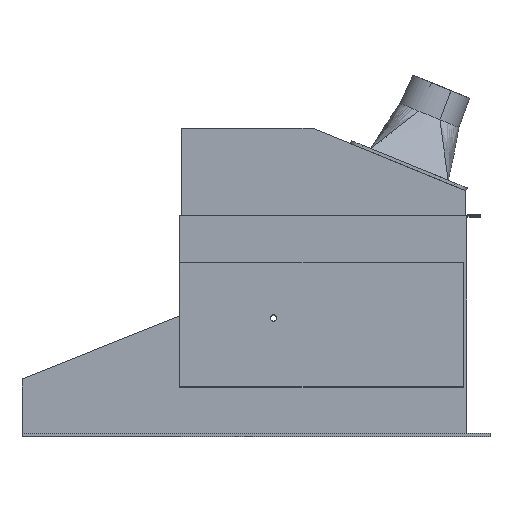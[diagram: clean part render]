
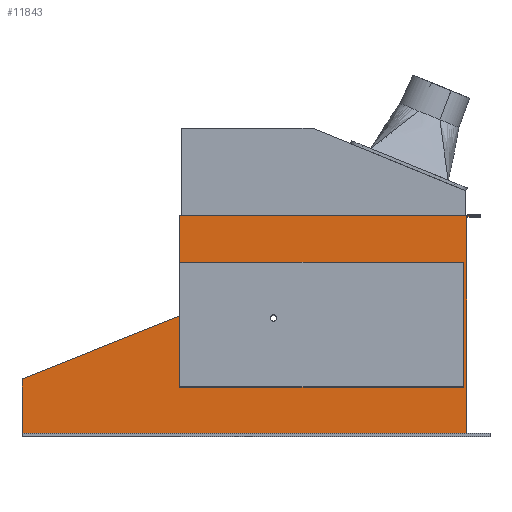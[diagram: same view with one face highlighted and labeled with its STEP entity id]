
A CAD part, top view. The second image highlights one B-rep face of the part: STEP entity #11843.
In plain terms, the highlighted planar face has unit normal (0, 0, 1).
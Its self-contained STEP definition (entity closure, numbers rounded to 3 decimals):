
#621 = DIRECTION ( 'NONE',  ( 0., -1., 0. ) ) ;
#857 = LINE ( 'NONE', #12653, #14472 ) ;
#1175 = CARTESIAN_POINT ( 'NONE',  ( 331.485, -97.895, 243. ) ) ;
#2078 = VECTOR ( 'NONE', #19896, 1000. ) ;
#2481 = VECTOR ( 'NONE', #44364, 1000. ) ;
#3699 = LINE ( 'NONE', #30045, #2078 ) ;
#4401 = ORIENTED_EDGE ( 'NONE', *, *, #63240, .F. ) ;
#8157 = CARTESIAN_POINT ( 'NONE',  ( 337.485, -171.895, 243. ) ) ;
#9561 = CARTESIAN_POINT ( 'NONE',  ( -122.515, 0., 243. ) ) ;
#10564 = VECTOR ( 'NONE', #21807, 1000. ) ;
#10803 = CARTESIAN_POINT ( 'NONE',  ( 359.485, 176.605, 243. ) ) ;
#11046 = CARTESIAN_POINT ( 'NONE',  ( 0., 0., 243. ) ) ;
#11843 = ADVANCED_FACE ( 'NONE', ( #56024 ), #45759, .T. ) ;
#12171 = LINE ( 'NONE', #1175, #10564 ) ;
#12600 = LINE ( 'NONE', #15200, #37484 ) ;
#12653 = CARTESIAN_POINT ( 'NONE',  ( 0., 176.605, 243. ) ) ;
#13402 = AXIS2_PLACEMENT_3D ( 'NONE', #11046, #50693, #21186 ) ;
#14169 = EDGE_LOOP ( 'NONE', ( #46524, #21892, #30207, #23975, #17611, #39983, #48367, #4401, #46416, #29664, #46257, #47046 ) ) ;
#14261 = DIRECTION ( 'NONE',  ( 0., -1., 0. ) ) ;
#14472 = VECTOR ( 'NONE', #27914, 1000. ) ;
#15043 = DIRECTION ( 'NONE',  ( 1., 0., 0. ) ) ;
#15200 = CARTESIAN_POINT ( 'NONE',  ( -122.515, -97.895, 243. ) ) ;
#15883 = LINE ( 'NONE', #30062, #39107 ) ;
#16955 = CARTESIAN_POINT ( 'NONE',  ( 331.485, -97.895, 243. ) ) ;
#17611 = ORIENTED_EDGE ( 'NONE', *, *, #55529, .F. ) ;
#17877 = CARTESIAN_POINT ( 'NONE',  ( -22.521, 56.303, 243. ) ) ;
#19896 = DIRECTION ( 'NONE',  ( 0., -1., 0. ) ) ;
#21143 = DIRECTION ( 'NONE',  ( -1., 0., 0. ) ) ;
#21186 = DIRECTION ( 'NONE',  ( 1., 0., 0. ) ) ;
#21807 = DIRECTION ( 'NONE',  ( 1., 0., 0. ) ) ;
#21892 = ORIENTED_EDGE ( 'NONE', *, *, #51034, .T. ) ;
#22024 = CARTESIAN_POINT ( 'NONE',  ( 359.485, 174.896, 243. ) ) ;
#22222 = VERTEX_POINT ( 'NONE', #8157 ) ;
#22512 = EDGE_CURVE ( 'NONE', #43458, #25702, #12171, .T. ) ;
#22532 = VERTEX_POINT ( 'NONE', #61094 ) ;
#22593 = VERTEX_POINT ( 'NONE', #22024 ) ;
#22732 = DIRECTION ( 'NONE',  ( 0., 1., 0. ) ) ;
#23297 = CARTESIAN_POINT ( 'NONE',  ( 337.485, 174.896, 243. ) ) ;
#23975 = ORIENTED_EDGE ( 'NONE', *, *, #42413, .T. ) ;
#25197 = DIRECTION ( 'NONE',  ( 0., -1., 0. ) ) ;
#25702 = VERTEX_POINT ( 'NONE', #16955 ) ;
#25825 = EDGE_CURVE ( 'NONE', #50061, #35016, #40879, .T. ) ;
#27198 = LINE ( 'NONE', #44043, #38781 ) ;
#27914 = DIRECTION ( 'NONE',  ( 1., 0., 0. ) ) ;
#29189 = EDGE_CURVE ( 'NONE', #25702, #41088, #32568, .T. ) ;
#29411 = CARTESIAN_POINT ( 'NONE',  ( 331.485, 102.105, 243. ) ) ;
#29664 = ORIENTED_EDGE ( 'NONE', *, *, #22512, .F. ) ;
#30045 = CARTESIAN_POINT ( 'NONE',  ( 359.485, 0., 243. ) ) ;
#30062 = CARTESIAN_POINT ( 'NONE',  ( 0., -171.895, 243. ) ) ;
#30207 = ORIENTED_EDGE ( 'NONE', *, *, #39082, .F. ) ;
#32568 = LINE ( 'NONE', #52240, #60185 ) ;
#32993 = DIRECTION ( 'NONE',  ( -0.928, -0.371, 0. ) ) ;
#34644 = VECTOR ( 'NONE', #14261, 1000. ) ;
#34961 = CARTESIAN_POINT ( 'NONE',  ( -122.515, 102.105, 243. ) ) ;
#35016 = VERTEX_POINT ( 'NONE', #34961 ) ;
#35780 = EDGE_CURVE ( 'NONE', #50061, #55618, #857, .T. ) ;
#36141 = CARTESIAN_POINT ( 'NONE',  ( -122.515, 16.305, 243. ) ) ;
#37484 = VECTOR ( 'NONE', #25197, 1000. ) ;
#38781 = VECTOR ( 'NONE', #15043, 1000. ) ;
#39082 = EDGE_CURVE ( 'NONE', #51836, #22222, #55204, .T. ) ;
#39107 = VECTOR ( 'NONE', #49617, 1000. ) ;
#39490 = VERTEX_POINT ( 'NONE', #36141 ) ;
#39983 = ORIENTED_EDGE ( 'NONE', *, *, #35780, .F. ) ;
#40356 = EDGE_CURVE ( 'NONE', #39490, #43458, #12600, .T. ) ;
#40663 = VECTOR ( 'NONE', #621, 1000. ) ;
#40813 = CARTESIAN_POINT ( 'NONE',  ( 331.485, 102.105, 243. ) ) ;
#40879 = LINE ( 'NONE', #9561, #2481 ) ;
#41088 = VERTEX_POINT ( 'NONE', #29411 ) ;
#42413 = EDGE_CURVE ( 'NONE', #51836, #22593, #27198, .T. ) ;
#43458 = VERTEX_POINT ( 'NONE', #49009 ) ;
#44043 = CARTESIAN_POINT ( 'NONE',  ( 0., 174.896, 243. ) ) ;
#44364 = DIRECTION ( 'NONE',  ( 0., -1., 0. ) ) ;
#45759 = PLANE ( 'NONE',  #13402 ) ;
#46181 = LINE ( 'NONE', #40813, #47711 ) ;
#46257 = ORIENTED_EDGE ( 'NONE', *, *, #40356, .F. ) ;
#46416 = ORIENTED_EDGE ( 'NONE', *, *, #29189, .F. ) ;
#46524 = ORIENTED_EDGE ( 'NONE', *, *, #47756, .T. ) ;
#47046 = ORIENTED_EDGE ( 'NONE', *, *, #58761, .T. ) ;
#47711 = VECTOR ( 'NONE', #21143, 1000. ) ;
#47719 = LINE ( 'NONE', #58669, #34644 ) ;
#47756 = EDGE_CURVE ( 'NONE', #52261, #22532, #47719, .T. ) ;
#48367 = ORIENTED_EDGE ( 'NONE', *, *, #25825, .T. ) ;
#48599 = LINE ( 'NONE', #17877, #60052 ) ;
#49009 = CARTESIAN_POINT ( 'NONE',  ( -122.515, -97.895, 243. ) ) ;
#49617 = DIRECTION ( 'NONE',  ( 1., 0., 0. ) ) ;
#50061 = VERTEX_POINT ( 'NONE', #61723 ) ;
#50365 = CARTESIAN_POINT ( 'NONE',  ( 337.485, 0., 243. ) ) ;
#50693 = DIRECTION ( 'NONE',  ( 0., 0., 1. ) ) ;
#51034 = EDGE_CURVE ( 'NONE', #22532, #22222, #15883, .T. ) ;
#51836 = VERTEX_POINT ( 'NONE', #23297 ) ;
#52240 = CARTESIAN_POINT ( 'NONE',  ( 331.485, -97.895, 243. ) ) ;
#52261 = VERTEX_POINT ( 'NONE', #62118 ) ;
#55204 = LINE ( 'NONE', #50365, #40663 ) ;
#55529 = EDGE_CURVE ( 'NONE', #55618, #22593, #3699, .T. ) ;
#55618 = VERTEX_POINT ( 'NONE', #10803 ) ;
#56024 = FACE_OUTER_BOUND ( 'NONE', #14169, .T. ) ;
#58669 = CARTESIAN_POINT ( 'NONE',  ( -375.515, 0., 243. ) ) ;
#58761 = EDGE_CURVE ( 'NONE', #39490, #52261, #48599, .T. ) ;
#60052 = VECTOR ( 'NONE', #32993, 1000. ) ;
#60185 = VECTOR ( 'NONE', #22732, 1000. ) ;
#61094 = CARTESIAN_POINT ( 'NONE',  ( -375.515, -171.895, 243. ) ) ;
#61723 = CARTESIAN_POINT ( 'NONE',  ( -122.515, 176.605, 243. ) ) ;
#62118 = CARTESIAN_POINT ( 'NONE',  ( -375.515, -84.895, 243. ) ) ;
#63240 = EDGE_CURVE ( 'NONE', #41088, #35016, #46181, .T. ) ;
